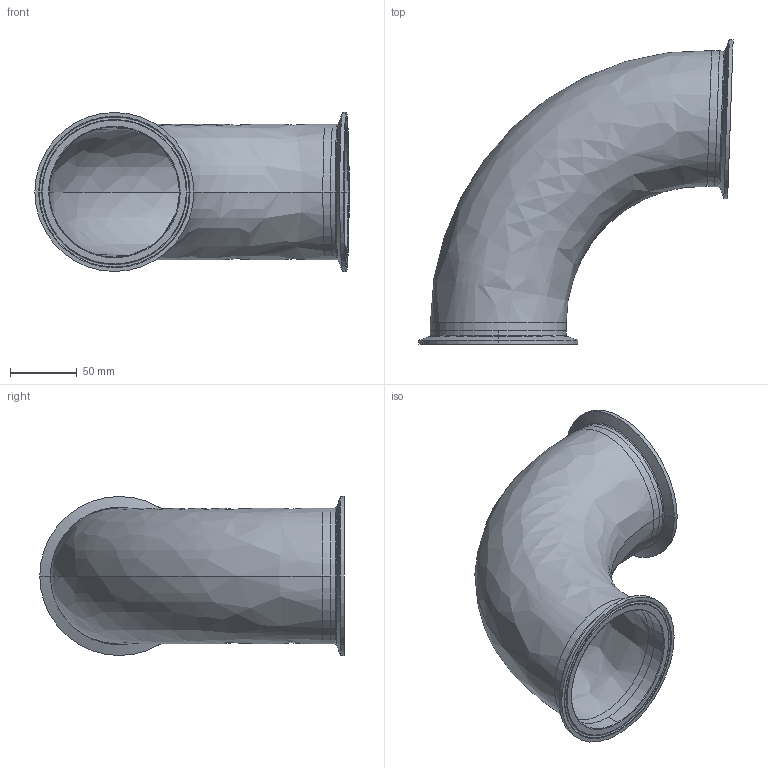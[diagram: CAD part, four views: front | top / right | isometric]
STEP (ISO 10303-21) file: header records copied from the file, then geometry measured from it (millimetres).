
FILE_DESCRIPTION (( 'STEP AP214' ), '1' );
FILE_NAME ('TEG2C926L4.0-...STEP', '2016-05-22T11:38:48', ( 'eran' ), ( '' ), 'SwSTEP 2.0', 'SolidWorks 2016', '' );
FILE_SCHEMA (( 'AUTOMOTIVE_DESIGN' ));
Length unit declared in the file: millimetre
Products named in the file (1): TEG2C926L4.0-..
Bounding box: 235.02 x 227.67 x 118.92 mm (x, y, z)
Volume: 207985.9 mm3; surface area: 187888.2 mm2
Topology: 3 solids, 3 shells, 64 faces, 156 edges, 100 vertices
Faces by surface type: bspline 24, cylinder 20, cone 12, plane 8
Entity records: 3320 total; most frequent: CARTESIAN_POINT 1765, DIRECTION 338, ORIENTED_EDGE 312, EDGE_CURVE 156, AXIS2_PLACEMENT_3D 153, CIRCLE 112, VERTEX_POINT 100, EDGE_LOOP 72
